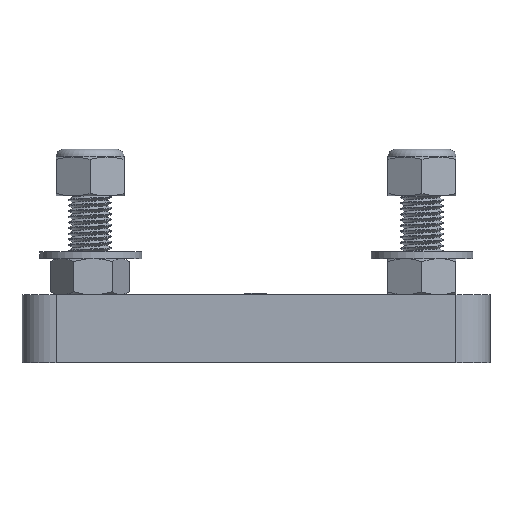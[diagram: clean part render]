
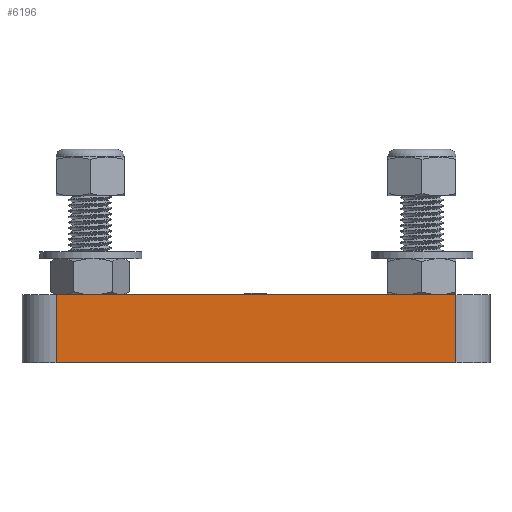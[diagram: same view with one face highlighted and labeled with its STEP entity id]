
A CAD part, front view. The second image highlights one B-rep face of the part: STEP entity #6196.
In plain terms, the highlighted planar face has unit normal (0, -1, 0).
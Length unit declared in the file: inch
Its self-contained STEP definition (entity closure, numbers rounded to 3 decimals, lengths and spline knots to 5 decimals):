
#753=FACE_OUTER_BOUND('',#1126,.T.);
#1126=EDGE_LOOP('',(#4830,#4831,#4832,#4833));
#1832=LINE('',#10064,#2257);
#1847=LINE('',#10143,#2272);
#1848=LINE('',#10146,#2273);
#1849=LINE('',#10148,#2274);
#2257=VECTOR('',#7327,0.3937);
#2272=VECTOR('',#7412,0.3937);
#2273=VECTOR('',#7417,0.3937);
#2274=VECTOR('',#7420,0.3937);
#2694=VERTEX_POINT('',#10061);
#2695=VERTEX_POINT('',#10063);
#2723=VERTEX_POINT('',#10140);
#2724=VERTEX_POINT('',#10142);
#3444=EDGE_CURVE('',#2694,#2695,#1832,.T.);
#3482=EDGE_CURVE('',#2724,#2723,#1847,.T.);
#3484=EDGE_CURVE('',#2724,#2694,#1848,.T.);
#3485=EDGE_CURVE('',#2695,#2723,#1849,.T.);
#4830=ORIENTED_EDGE('',*,*,#3484,.F.);
#4831=ORIENTED_EDGE('',*,*,#3482,.T.);
#4832=ORIENTED_EDGE('',*,*,#3485,.F.);
#4833=ORIENTED_EDGE('',*,*,#3444,.F.);
#5980=PLANE('',#6624);
#6196=ADVANCED_FACE('',(#753),#5980,.T.);
#6624=AXIS2_PLACEMENT_3D('',#10147,#7418,#7419);
#7327=DIRECTION('',(1.,0.,0.));
#7412=DIRECTION('',(1.,0.,0.));
#7417=DIRECTION('',(0.,0.,1.));
#7418=DIRECTION('center_axis',(0.,-1.,0.));
#7419=DIRECTION('ref_axis',(1.,0.,0.));
#7420=DIRECTION('',(0.,0.,-1.));
#10061=CARTESIAN_POINT('',(0.25,0.,0.5));
#10063=CARTESIAN_POINT('',(3.19,0.,0.5));
#10064=CARTESIAN_POINT('',(0.,0.,0.5));
#10140=CARTESIAN_POINT('',(3.19,0.,0.));
#10142=CARTESIAN_POINT('',(0.25,0.,0.));
#10143=CARTESIAN_POINT('',(0.,0.,0.));
#10146=CARTESIAN_POINT('',(0.25,0.,0.));
#10147=CARTESIAN_POINT('Origin',(0.,0.,0.));
#10148=CARTESIAN_POINT('',(3.19,0.,0.));
